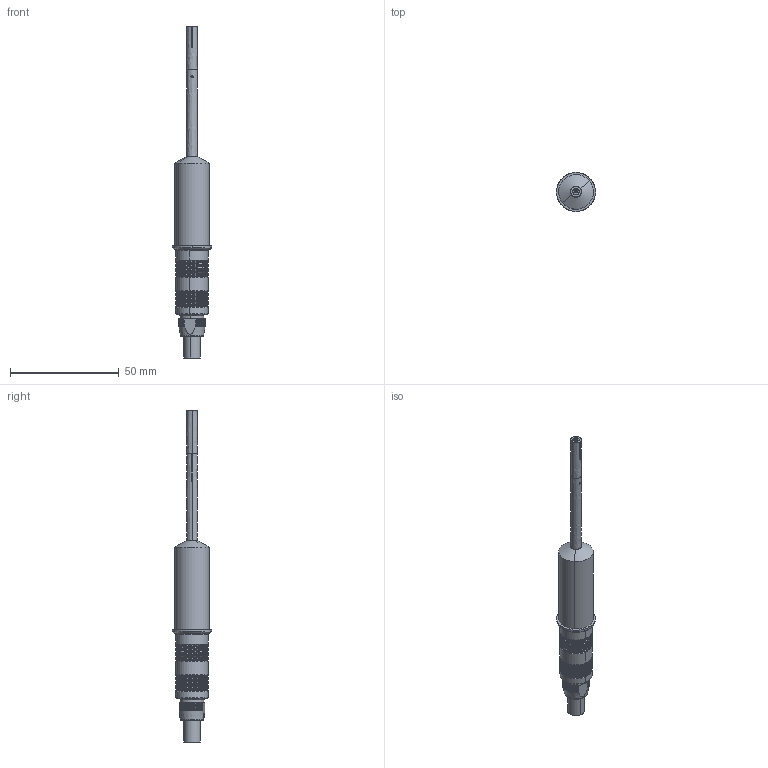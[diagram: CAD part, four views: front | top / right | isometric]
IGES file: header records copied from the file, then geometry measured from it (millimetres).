
Start section: SolidWorks IGES file using analytic representation for surfaces
Global section: file name: C:\SolidWorks Data (2)\Winker Foser\RISO5 Zeichnungen\RISO5_lang_Stecker_gerade.IGS; native system: SolidWorks 2010; preprocessor: SolidWorks 2010; author: m; date: 110221.020022; units: millimetre
Bounding box: 18 x 18 x 153 mm (x, y, z)
Surface area: 6004 mm2 (no closed solid volume)
Topology: 0 solids, 0 shells, 7010 faces, 30121 edges, 30119 vertices
Faces by surface type: bspline 4336, revolution 2674
